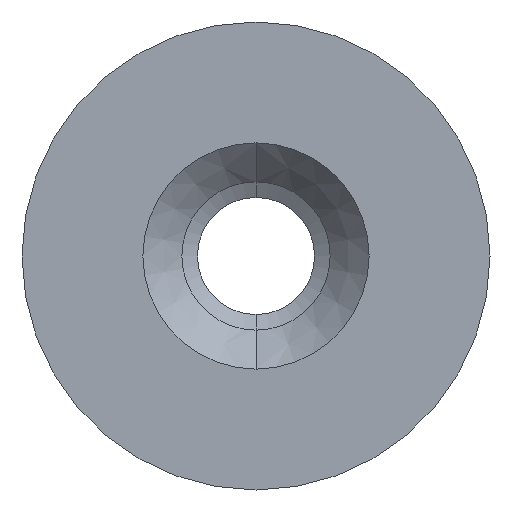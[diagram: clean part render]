
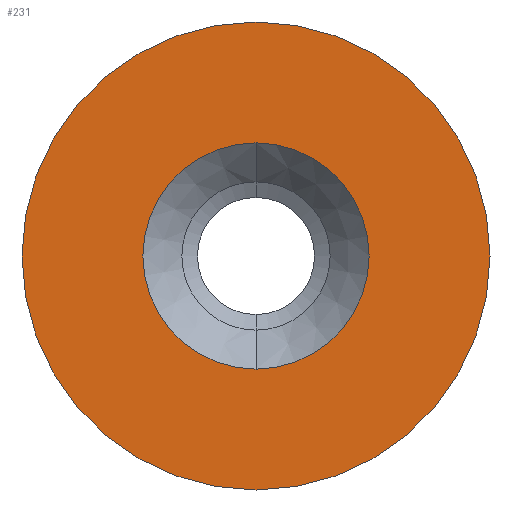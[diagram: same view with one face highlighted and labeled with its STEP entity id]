
A CAD part, front view. The second image highlights one B-rep face of the part: STEP entity #231.
In plain terms, the highlighted planar face has unit normal (0, -1, 0).
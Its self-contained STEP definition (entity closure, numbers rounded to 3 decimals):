
#14 = EDGE_LOOP ( 'NONE', ( #491, #444 ) ) ;
#23 = FACE_OUTER_BOUND ( 'NONE', #86, .T. ) ;
#25 = VERTEX_POINT ( 'NONE', #275 ) ;
#32 = CIRCLE ( 'NONE', #415, 1.45 ) ;
#65 = ORIENTED_EDGE ( 'NONE', *, *, #220, .T. ) ;
#70 = DIRECTION ( 'NONE',  ( 0., 0., -1. ) ) ;
#73 = CARTESIAN_POINT ( 'NONE',  ( 0., 0., -1.45 ) ) ;
#86 = EDGE_LOOP ( 'NONE', ( #151, #65 ) ) ;
#88 = CARTESIAN_POINT ( 'NONE',  ( 0., 0., 0. ) ) ;
#92 = AXIS2_PLACEMENT_3D ( 'NONE', #332, #262, #375 ) ;
#96 = DIRECTION ( 'NONE',  ( 0., -1., 0. ) ) ;
#103 = CARTESIAN_POINT ( 'NONE',  ( 0., 0., 1.45 ) ) ;
#107 = VERTEX_POINT ( 'NONE', #171 ) ;
#112 = AXIS2_PLACEMENT_3D ( 'NONE', #374, #269, #259 ) ;
#125 = DIRECTION ( 'NONE',  ( 0., 0., -1. ) ) ;
#131 = CIRCLE ( 'NONE', #181, 1.45 ) ;
#133 = AXIS2_PLACEMENT_3D ( 'NONE', #339, #193, #70 ) ;
#151 = ORIENTED_EDGE ( 'NONE', *, *, #452, .T. ) ;
#152 = CIRCLE ( 'NONE', #133, 3. ) ;
#162 = VERTEX_POINT ( 'NONE', #103 ) ;
#171 = CARTESIAN_POINT ( 'NONE',  ( 0., 0., 3. ) ) ;
#181 = AXIS2_PLACEMENT_3D ( 'NONE', #88, #96, #395 ) ;
#187 = PLANE ( 'NONE',  #112 ) ;
#193 = DIRECTION ( 'NONE',  ( 0., -1., 0. ) ) ;
#197 = FACE_BOUND ( 'NONE', #14, .T. ) ;
#220 = EDGE_CURVE ( 'NONE', #107, #25, #286, .T. ) ;
#231 = ADVANCED_FACE ( 'NONE', ( #197, #23 ), #187, .F. ) ;
#244 = VERTEX_POINT ( 'NONE', #73 ) ;
#259 = DIRECTION ( 'NONE',  ( 0., 0., 1. ) ) ;
#262 = DIRECTION ( 'NONE',  ( 0., -1., 0. ) ) ;
#269 = DIRECTION ( 'NONE',  ( 0., 1., 0. ) ) ;
#275 = CARTESIAN_POINT ( 'NONE',  ( 0., 0., -3. ) ) ;
#286 = CIRCLE ( 'NONE', #92, 3. ) ;
#290 = CARTESIAN_POINT ( 'NONE',  ( 0., 0., 0. ) ) ;
#332 = CARTESIAN_POINT ( 'NONE',  ( 0., 0., 0. ) ) ;
#336 = EDGE_CURVE ( 'NONE', #162, #244, #131, .T. ) ;
#339 = CARTESIAN_POINT ( 'NONE',  ( 0., 0., 0. ) ) ;
#351 = DIRECTION ( 'NONE',  ( 0., -1., 0. ) ) ;
#374 = CARTESIAN_POINT ( 'NONE',  ( -1.45, 0., 0. ) ) ;
#375 = DIRECTION ( 'NONE',  ( 0., 0., -1. ) ) ;
#381 = EDGE_CURVE ( 'NONE', #244, #162, #32, .T. ) ;
#395 = DIRECTION ( 'NONE',  ( 0., 0., -1. ) ) ;
#415 = AXIS2_PLACEMENT_3D ( 'NONE', #290, #351, #125 ) ;
#444 = ORIENTED_EDGE ( 'NONE', *, *, #336, .F. ) ;
#452 = EDGE_CURVE ( 'NONE', #25, #107, #152, .T. ) ;
#491 = ORIENTED_EDGE ( 'NONE', *, *, #381, .F. ) ;
